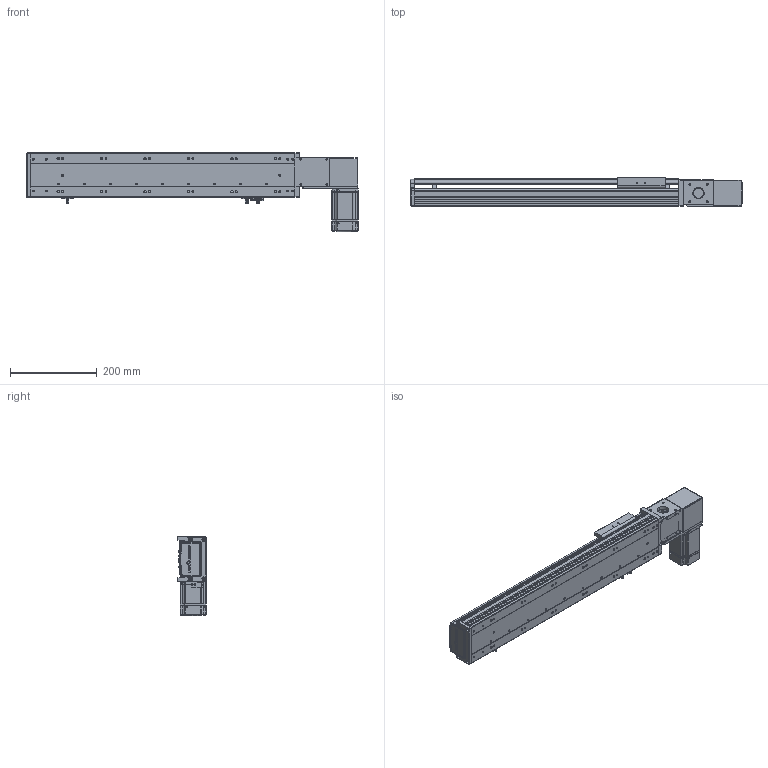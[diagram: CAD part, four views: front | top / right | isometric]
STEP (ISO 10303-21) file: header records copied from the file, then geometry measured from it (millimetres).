
FILE_DESCRIPTION (( 'STEP AP203' ), '1' );
FILE_NAME ('RY100-T-300-LK.SLDASM_400.step', '2024-04-25T05:36:43', ( '盈信电脑' ), ( '东莞市道滘镇水果街19号' ), 'SwSTEP 2.0', 'SolidWorks 2016', '' );
FILE_SCHEMA (( 'CONFIG_CONTROL_DESIGN' ));
Length unit declared in the file: millimetre
Products named in the file (13): RY100-T肮祭謫臏賑輸; 1; RY100俋离覜茼え; RY100綴裔啣; RY100-T左右折电机安装板; RY100-T-300-LK.SLDASM_400; RY100-T肮祭謫翋盓傅釱; RY80-T肮祭謫俋欶; 滅袉蝶18-10; 覜茼ん672; RY100-T翋肮祭謫裔啣2; RY100-T-300-RK倰第奻裔_400; RY100-T-300-RK倰第菁釱_400
Assembly tree (16 placements, depth 2):
  RY100-T-300-LK.SLDASM_400
    RY100-T-300-RK倰第菁釱_400
    RY100-T-300-RK倰第奻裔_400
    RY100-T肮祭謫臏賑輸
    RY100綴裔啣
    覜茼ん672  x3
    RY100俋离覜茼え
    RY100-T肮祭謫翋盓傅釱
    滅袉蝶18-10  x2
    RY100-T翋肮祭謫裔啣2  x2
    RY80-T肮祭謫俋欶
    RY100-T左右折电机安装板
    1
Bounding box: 764 x 66 x 182.5 mm (x, y, z)
Volume: 1653800.8 mm3; surface area: 646404.6 mm2
Topology: 16 solids, 16 shells, 2108 faces, 5866 edges, 3810 vertices
Faces by surface type: plane 1170, cylinder 731, cone 129, bspline 78
Entity records: 66874 total; most frequent: CARTESIAN_POINT 16233, ORIENTED_EDGE 10468, DIRECTION 9910, EDGE_CURVE 5234, VERTEX_POINT 3446, LINE 3438, VECTOR 3438, AXIS2_PLACEMENT_3D 3236
